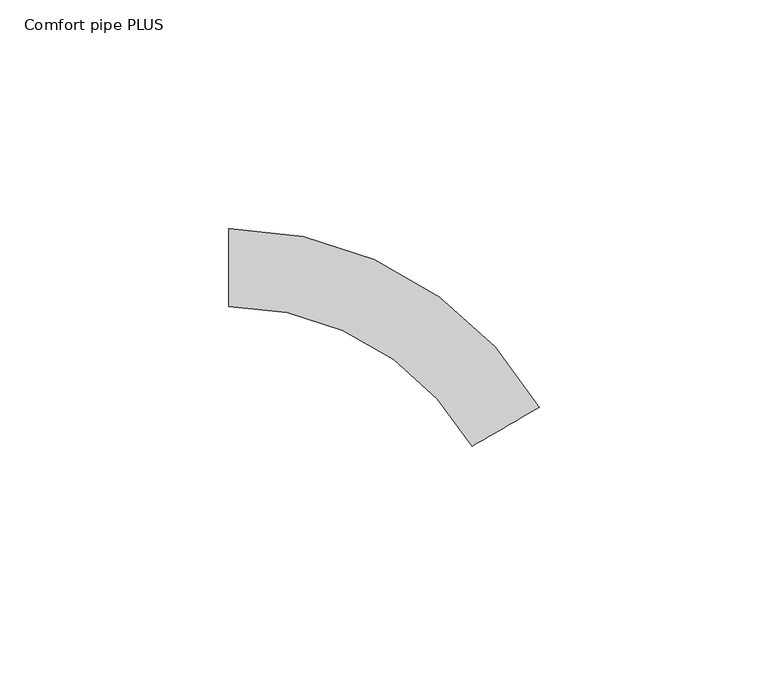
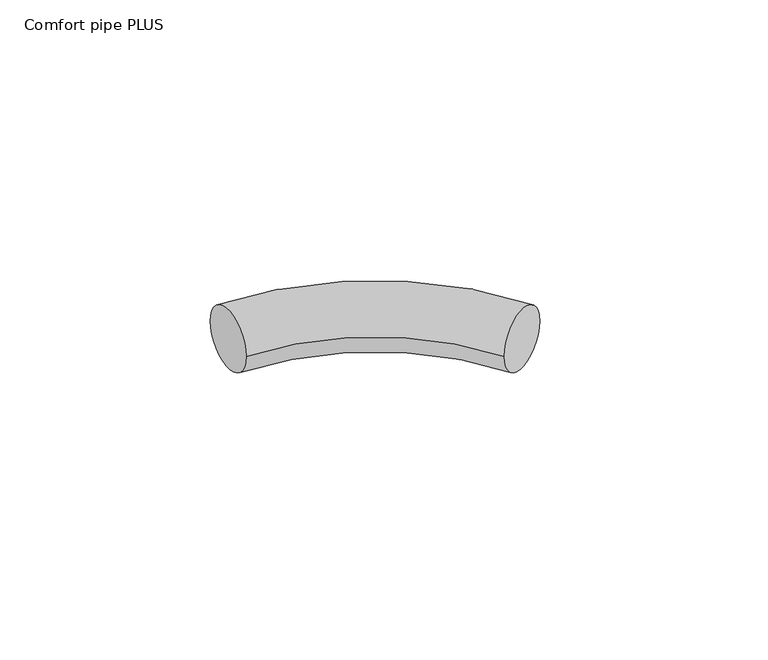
"""IFC4 building model written with IfcOpenShell, lengths in millimetres: pipe fitting geometry, 400_5-_Uponor_curved_Elbow : Comfort pipe PLUS."""

from ifc_helpers import new_model, si_unit, point, frame, origin, place, context, project, spatial, circle_curve, ellipse_curve, trimmed, source, transform, mapped, element, save
from ifc_brep_helpers import plane_surface, revolved_surface, advanced_brep


def comfort_pipe_plus_079da7db(model_context):
    return source(origin(), model_context, "Body", "AdvancedBrep", [
        advanced_brep(
        [(-40.2991808, 8.5, 0.0), (-40.2991808, -8.5, 0.0), (27.5865288, -30.5819784, 0.0), (12.8851649, -39.1183652, 0.0)],
        [
            (0, 1, circle_curve(frame((-40.2991808, 0.0, 0.0), z_axis=(-1.0, 0.0, 0.0), x_axis=(0.0, -1.0, 0.0)), 8.5)),
            (1, 0, circle_curve(frame((-40.2991808, 0.0, 0.0), z_axis=(-1.0, 0.0, 0.0), x_axis=(0.0, -1.0, 0.0)), 8.5)),
            (2, 3, circle_curve(frame((20.2358469, -34.8501718, 0.0), z_axis=(0.502140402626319, -0.8647861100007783, 0.0), x_axis=(-0.8647861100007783, -0.502140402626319, 0.0)), 8.5)),
            (3, 2, circle_curve(frame((20.2358469, -34.8501718, 0.0), z_axis=(0.502140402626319, -0.8647861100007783, 0.0), x_axis=(-0.8647861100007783, -0.502140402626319, 0.0)), 8.5)),
            (2, 0, circle_curve(frame((-40.2991808, -70.0, 0.0), z_axis=(0.0, 0.0, 1.0), x_axis=(0.0, 1.0, 0.0)), 78.5)),
            (1, 3, circle_curve(frame((-40.2991808, -70.0, 0.0), z_axis=(0.0, 0.0, -1.0), x_axis=(0.0, 1.0, 0.0)), 61.5)),
        ],
        [
            plane_surface(frame((-40.2991808, 0.0, 0.0), z_axis=(-1.0, 0.0, 0.0), x_axis=(0.0, 0.0, 1.0))),
            plane_surface(frame((20.2358469, -34.8501718, 0.0), z_axis=(0.5021404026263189, -0.8647861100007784, 0.0), x_axis=(0.0, 0.0, 1.0))),
            revolved_surface(trimmed(ellipse_curve(frame((-40.2991808, 0.0, 0.0), z_axis=(1.0, 0.0, 0.0), x_axis=(0.0, -1.0, 0.0)), 8.5, 8.5), [point((-40.2991808, 8.5, 0.0))], [point((-40.2991808, -8.5, 0.0))], True, "CARTESIAN"), (-40.2991808, -70.0, 0.0), (0.0, 0.0, 1.0)),
            revolved_surface(trimmed(ellipse_curve(frame((-40.2991808, 0.0, 0.0), z_axis=(1.0, 0.0, 0.0), x_axis=(0.0, -1.0, 0.0)), 8.5, 8.5), [point((-40.2991808, -8.5, 0.0))], [point((-40.2991808, 8.5, 0.0))], True, "CARTESIAN"), (-40.2991808, -70.0, 0.0), (0.0, 0.0, 1.0)),
        ],
        [
            (0, [[1, 2]]),
            (1, [[3, 4]]),
            (2, [[-3, 5, -2, 6]]),
            (3, [[-4, -6, -1, -5]]),
        ],
    ),
    ])


if __name__ == "__main__":
    model = new_model("IFC4")
    model_context = context("Model", 3, world=origin())
    ifc_project = project(units=[si_unit("LENGTHUNIT", "METRE", prefix="MILLI")], contexts=[model_context])
    site = spatial("IfcSite", under=ifc_project)
    building = spatial("IfcBuilding", under=site)
    placement = place(None, origin())
    comfort_pipe_plus_shape = comfort_pipe_plus_079da7db(model_context)
    element("IfcPipeFitting", 1, ObjectType="400_5-_Uponor_curved_Elbow : Comfort pipe PLUS", at=placement, inside=building, context=model_context, shape_type="MappedRepresentation", body=[
        mapped(comfort_pipe_plus_shape, transform((0.0, 0.0, 0.0), x_axis=(1.0, 0.0, 0.0), y_axis=(0.0, 1.0, 0.0), z_axis=(0.0, 0.0, 1.0))),
    ])
    save(model, "model.ifc")
